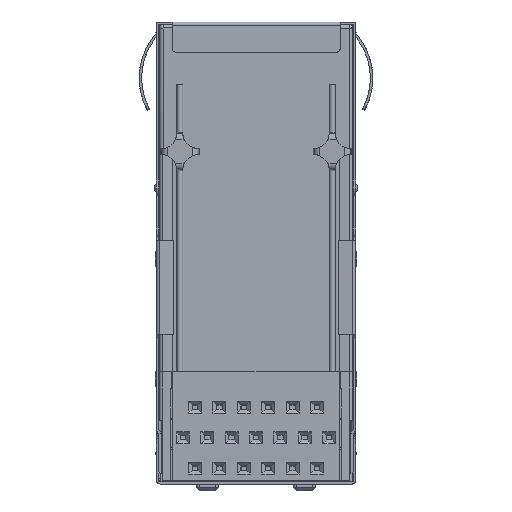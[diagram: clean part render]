
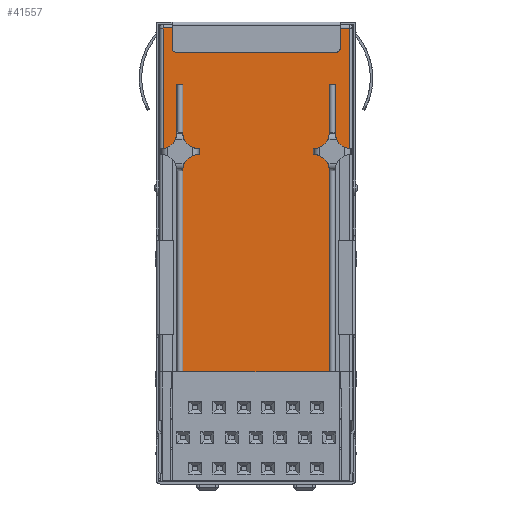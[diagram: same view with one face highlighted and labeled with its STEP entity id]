
A CAD part, front view. The second image highlights one B-rep face of the part: STEP entity #41557.
In plain terms, the highlighted planar face has unit normal (0, -1, 0).
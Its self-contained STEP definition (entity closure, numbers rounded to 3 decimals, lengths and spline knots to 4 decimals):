
#677=DIRECTION('',(1.,0.,0.));
#678=VECTOR('',#677,0.4803);
#679=CARTESIAN_POINT('',(-0.2402,0.,-1.1398));
#680=LINE('',#679,#678);
#4767=DIRECTION('',(-1.,0.,0.));
#4768=VECTOR('',#4767,0.6102);
#4769=CARTESIAN_POINT('',(0.3051,0.,-0.0118));
#4770=LINE('',#4769,#4768);
#4871=DIRECTION('',(0.,0.,-1.));
#4872=VECTOR('',#4871,0.3953);
#4873=CARTESIAN_POINT('',(-0.3051,0.,-0.0118));
#4874=LINE('',#4873,#4872);
#5208=CARTESIAN_POINT('',(0.311,0.,-0.3563));
#5209=DIRECTION('',(0.,1.,0.));
#5210=DIRECTION('',(-0.115,0.,-0.993));
#5211=AXIS2_PLACEMENT_3D('',#5208,#5209,#5210);
#5213=CARTESIAN_POINT('',(0.189,0.,-0.3563));
#5214=DIRECTION('',(0.,1.,0.));
#5215=DIRECTION('',(1.,0.,0.));
#5216=AXIS2_PLACEMENT_3D('',#5213,#5214,#5215);
#5218=DIRECTION('',(0.,0.,-1.));
#5219=VECTOR('',#5218,0.0197);
#5220=CARTESIAN_POINT('',(0.187,0.,-0.4075));
#5221=LINE('',#5220,#5219);
#5222=DIRECTION('',(1.,0.,0.));
#5223=VECTOR('',#5222,0.002);
#5224=CARTESIAN_POINT('',(0.187,0.,-0.4272));
#5225=LINE('',#5224,#5223);
#5226=CARTESIAN_POINT('',(0.189,0.,-0.4783));
#5227=DIRECTION('',(0.,1.,0.));
#5228=DIRECTION('',(0.,0.,1.));
#5229=AXIS2_PLACEMENT_3D('',#5226,#5227,#5228);
#5231=DIRECTION('',(0.,0.,-1.));
#5232=VECTOR('',#5231,0.6614);
#5233=CARTESIAN_POINT('',(0.2402,0.,-0.4783));
#5234=LINE('',#5233,#5232);
#5235=DIRECTION('',(0.,0.,1.));
#5236=VECTOR('',#5235,0.6614);
#5237=CARTESIAN_POINT('',(-0.2402,0.,-1.1398));
#5238=LINE('',#5237,#5236);
#5239=CARTESIAN_POINT('',(-0.189,0.,-0.4783));
#5240=DIRECTION('',(0.,1.,0.));
#5241=DIRECTION('',(-1.,0.,0.));
#5242=AXIS2_PLACEMENT_3D('',#5239,#5240,#5241);
#5244=DIRECTION('',(1.,0.,0.));
#5245=VECTOR('',#5244,0.002);
#5246=CARTESIAN_POINT('',(-0.189,0.,-0.4272));
#5247=LINE('',#5246,#5245);
#5248=CARTESIAN_POINT('',(-0.189,0.,-0.3563));
#5249=DIRECTION('',(0.,1.,0.));
#5250=DIRECTION('',(0.,0.,-1.));
#5251=AXIS2_PLACEMENT_3D('',#5248,#5249,#5250);
#5253=CARTESIAN_POINT('',(-0.311,0.,-0.3563));
#5254=DIRECTION('',(0.,1.,0.));
#5255=DIRECTION('',(1.,0.,0.));
#5256=AXIS2_PLACEMENT_3D('',#5253,#5254,#5255);
#5266=DIRECTION('',(0.,0.,1.));
#5267=VECTOR('',#5266,0.3953);
#5268=CARTESIAN_POINT('',(0.3051,0.,-0.4071));
#5269=LINE('',#5268,#5267);
#5427=DIRECTION('',(0.,0.,1.));
#5428=VECTOR('',#5427,0.1594);
#5429=CARTESIAN_POINT('',(0.2402,0.,-0.3563));
#5430=LINE('',#5429,#5428);
#5439=DIRECTION('',(1.,0.,0.));
#5440=VECTOR('',#5439,0.0197);
#5441=CARTESIAN_POINT('',(0.2402,0.,-0.1969));
#5442=LINE('',#5441,#5440);
#5452=DIRECTION('',(0.,0.,-1.));
#5453=VECTOR('',#5452,0.1594);
#5454=CARTESIAN_POINT('',(0.2598,0.,-0.1969));
#5455=LINE('',#5454,#5453);
#5553=DIRECTION('',(1.,0.,0.));
#5554=VECTOR('',#5553,0.002);
#5555=CARTESIAN_POINT('',(0.187,0.,-0.4075));
#5556=LINE('',#5555,#5554);
#5769=DIRECTION('',(0.,0.,1.));
#5770=VECTOR('',#5769,0.1594);
#5771=CARTESIAN_POINT('',(-0.2598,0.,-0.3563));
#5772=LINE('',#5771,#5770);
#5777=DIRECTION('',(1.,0.,0.));
#5778=VECTOR('',#5777,0.0197);
#5779=CARTESIAN_POINT('',(-0.2598,0.,-0.1969));
#5780=LINE('',#5779,#5778);
#5790=DIRECTION('',(0.,0.,-1.));
#5791=VECTOR('',#5790,0.1594);
#5792=CARTESIAN_POINT('',(-0.2402,0.,-0.1969));
#5793=LINE('',#5792,#5791);
#5858=DIRECTION('',(1.,0.,0.));
#5859=VECTOR('',#5858,0.002);
#5860=CARTESIAN_POINT('',(-0.189,0.,-0.4075));
#5861=LINE('',#5860,#5859);
#5870=DIRECTION('',(0.,0.,-1.));
#5871=VECTOR('',#5870,0.0197);
#5872=CARTESIAN_POINT('',(-0.187,0.,-0.4075));
#5873=LINE('',#5872,#5871);
#27825=CARTESIAN_POINT('',(-0.3051,0.,-0.0118));
#27826=CARTESIAN_POINT('',(-0.3051,0.,-0.4071));
#27827=VERTEX_POINT('',#27825);
#27828=VERTEX_POINT('',#27826);
#27829=CARTESIAN_POINT('',(0.3051,0.,-0.0118));
#27830=VERTEX_POINT('',#27829);
#27831=CARTESIAN_POINT('',(0.3051,0.,-0.4071));
#27832=VERTEX_POINT('',#27831);
#27833=CARTESIAN_POINT('',(0.2598,0.,-0.3563));
#27834=VERTEX_POINT('',#27833);
#27835=CARTESIAN_POINT('',(0.2598,0.,-0.1969));
#27836=VERTEX_POINT('',#27835);
#27837=CARTESIAN_POINT('',(0.2402,0.,-0.1969));
#27838=VERTEX_POINT('',#27837);
#27839=CARTESIAN_POINT('',(0.2402,0.,-0.3563));
#27840=VERTEX_POINT('',#27839);
#27841=CARTESIAN_POINT('',(0.189,0.,-0.4075));
#27842=VERTEX_POINT('',#27841);
#27843=CARTESIAN_POINT('',(0.187,0.,-0.4075));
#27844=VERTEX_POINT('',#27843);
#27845=CARTESIAN_POINT('',(0.187,0.,-0.4272));
#27846=VERTEX_POINT('',#27845);
#27847=CARTESIAN_POINT('',(0.189,0.,-0.4272));
#27848=VERTEX_POINT('',#27847);
#27849=CARTESIAN_POINT('',(0.2402,0.,-0.4783));
#27850=VERTEX_POINT('',#27849);
#27851=CARTESIAN_POINT('',(0.2402,0.,-1.1398));
#27852=VERTEX_POINT('',#27851);
#27853=CARTESIAN_POINT('',(-0.2402,0.,-1.1398));
#27854=VERTEX_POINT('',#27853);
#27855=CARTESIAN_POINT('',(-0.2402,0.,-0.4783));
#27856=VERTEX_POINT('',#27855);
#27857=CARTESIAN_POINT('',(-0.189,0.,-0.4272));
#27858=VERTEX_POINT('',#27857);
#27859=CARTESIAN_POINT('',(-0.187,0.,-0.4272));
#27860=VERTEX_POINT('',#27859);
#27861=CARTESIAN_POINT('',(-0.187,0.,-0.4075));
#27862=VERTEX_POINT('',#27861);
#27863=CARTESIAN_POINT('',(-0.189,0.,-0.4075));
#27864=VERTEX_POINT('',#27863);
#27865=CARTESIAN_POINT('',(-0.2402,0.,-0.3563));
#27866=VERTEX_POINT('',#27865);
#27867=CARTESIAN_POINT('',(-0.2402,0.,-0.1969));
#27868=VERTEX_POINT('',#27867);
#27869=CARTESIAN_POINT('',(-0.2598,0.,-0.1969));
#27870=VERTEX_POINT('',#27869);
#27871=CARTESIAN_POINT('',(-0.2598,0.,-0.3563));
#27872=VERTEX_POINT('',#27871);
#41506=CARTESIAN_POINT('',(0.,0.,-0.6358));
#41507=DIRECTION('',(0.,1.,0.));
#41508=DIRECTION('',(0.,0.,1.));
#41509=AXIS2_PLACEMENT_3D('',#41506,#41507,#41508);
#41510=PLANE('',#41509);
#41511=ORIENTED_EDGE('',*,*,#40776,.F.);
#41512=ORIENTED_EDGE('',*,*,#40604,.F.);
#41514=ORIENTED_EDGE('',*,*,#41513,.F.);
#41516=ORIENTED_EDGE('',*,*,#41515,.T.);
#41518=ORIENTED_EDGE('',*,*,#41517,.F.);
#41520=ORIENTED_EDGE('',*,*,#41519,.F.);
#41522=ORIENTED_EDGE('',*,*,#41521,.F.);
#41524=ORIENTED_EDGE('',*,*,#41523,.T.);
#41526=ORIENTED_EDGE('',*,*,#41525,.F.);
#41528=ORIENTED_EDGE('',*,*,#41527,.T.);
#41530=ORIENTED_EDGE('',*,*,#41529,.T.);
#41532=ORIENTED_EDGE('',*,*,#41531,.T.);
#41533=ORIENTED_EDGE('',*,*,#41488,.T.);
#41534=ORIENTED_EDGE('',*,*,#33347,.F.);
#41536=ORIENTED_EDGE('',*,*,#41535,.T.);
#41538=ORIENTED_EDGE('',*,*,#41537,.T.);
#41540=ORIENTED_EDGE('',*,*,#41539,.T.);
#41542=ORIENTED_EDGE('',*,*,#41541,.F.);
#41544=ORIENTED_EDGE('',*,*,#41543,.F.);
#41546=ORIENTED_EDGE('',*,*,#41545,.T.);
#41548=ORIENTED_EDGE('',*,*,#41547,.F.);
#41550=ORIENTED_EDGE('',*,*,#41549,.F.);
#41552=ORIENTED_EDGE('',*,*,#41551,.F.);
#41554=ORIENTED_EDGE('',*,*,#41553,.T.);
#41555=EDGE_LOOP('',(#41511,#41512,#41514,#41516,#41518,#41520,#41522,#41524,
#41526,#41528,#41530,#41532,#41533,#41534,#41536,#41538,#41540,#41542,#41544,
#41546,#41548,#41550,#41552,#41554));
#41556=FACE_OUTER_BOUND('',#41555,.F.);
#5212=CIRCLE('',#5211,0.0512);
#5217=CIRCLE('',#5216,0.0512);
#5230=CIRCLE('',#5229,0.0512);
#5243=CIRCLE('',#5242,0.0512);
#5252=CIRCLE('',#5251,0.0512);
#5257=CIRCLE('',#5256,0.0512);
#33347=EDGE_CURVE('',#27854,#27852,#680,.T.);
#40604=EDGE_CURVE('',#27830,#27827,#4770,.T.);
#40776=EDGE_CURVE('',#27827,#27828,#4874,.T.);
#41488=EDGE_CURVE('',#27850,#27852,#5234,.T.);
#41513=EDGE_CURVE('',#27832,#27830,#5269,.T.);
#41515=EDGE_CURVE('',#27832,#27834,#5212,.T.);
#41517=EDGE_CURVE('',#27836,#27834,#5455,.T.);
#41519=EDGE_CURVE('',#27838,#27836,#5442,.T.);
#41521=EDGE_CURVE('',#27840,#27838,#5430,.T.);
#41523=EDGE_CURVE('',#27840,#27842,#5217,.T.);
#41525=EDGE_CURVE('',#27844,#27842,#5556,.T.);
#41527=EDGE_CURVE('',#27844,#27846,#5221,.T.);
#41529=EDGE_CURVE('',#27846,#27848,#5225,.T.);
#41531=EDGE_CURVE('',#27848,#27850,#5230,.T.);
#41535=EDGE_CURVE('',#27854,#27856,#5238,.T.);
#41537=EDGE_CURVE('',#27856,#27858,#5243,.T.);
#41539=EDGE_CURVE('',#27858,#27860,#5247,.T.);
#41541=EDGE_CURVE('',#27862,#27860,#5873,.T.);
#41543=EDGE_CURVE('',#27864,#27862,#5861,.T.);
#41545=EDGE_CURVE('',#27864,#27866,#5252,.T.);
#41547=EDGE_CURVE('',#27868,#27866,#5793,.T.);
#41549=EDGE_CURVE('',#27870,#27868,#5780,.T.);
#41551=EDGE_CURVE('',#27872,#27870,#5772,.T.);
#41553=EDGE_CURVE('',#27872,#27828,#5257,.T.);
#41557=ADVANCED_FACE('',(#41556),#41510,.F.);
